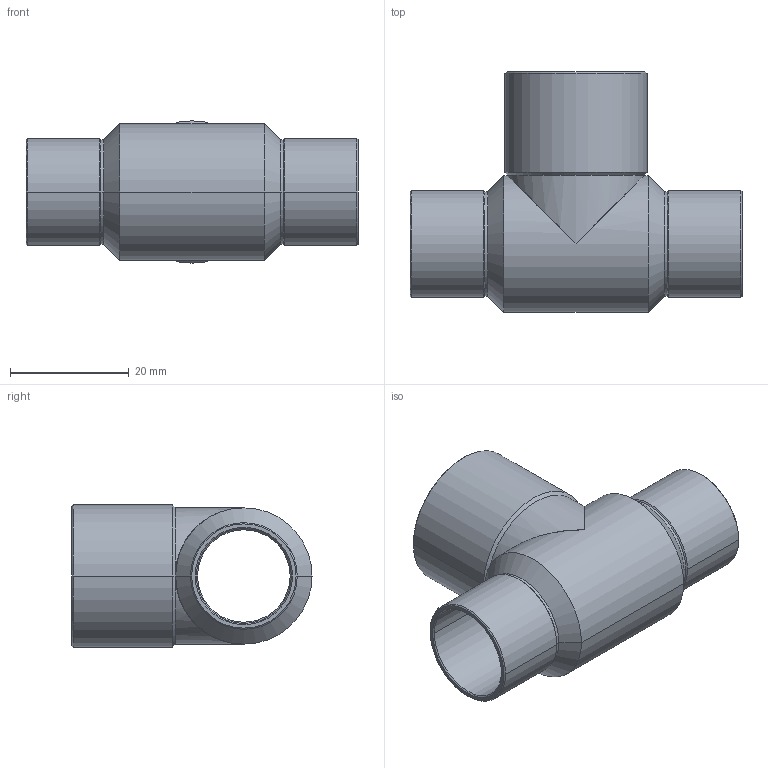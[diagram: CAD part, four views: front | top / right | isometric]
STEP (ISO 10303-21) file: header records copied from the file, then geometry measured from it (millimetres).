
FILE_DESCRIPTION((''),'2;1');
FILE_NAME('P:\Bouwmaten\z-maattekeningen 3D\5000\5130\5130162216.stp','2005-10-26T11:53:15',('Kris'),(''),'Autodesk Inventor 8','Autodesk Inventor 8','');
FILE_SCHEMA(('AUTOMOTIVE_DESIGN { 1 0 10303 214 1 1 1 1 }'));
Length unit declared in the file: millimetre
Products named in the file (1): 5130162216
Bounding box: 56 x 40.5 x 24 mm (x, y, z)
Volume: 4621.3 mm3; surface area: 9427.5 mm2
Topology: 1 solids, 1 shells, 67 faces, 152 edges, 78 vertices
Faces by surface type: cone 32, cylinder 28, bspline 4, plane 3
Entity records: 2225 total; most frequent: CARTESIAN_POINT 718, DIRECTION 348, ORIENTED_EDGE 288, AXIS2_PLACEMENT_3D 144, EDGE_CURVE 144, VERTEX_POINT 78, EDGE_LOOP 70, FACE_OUTER_BOUND 67
